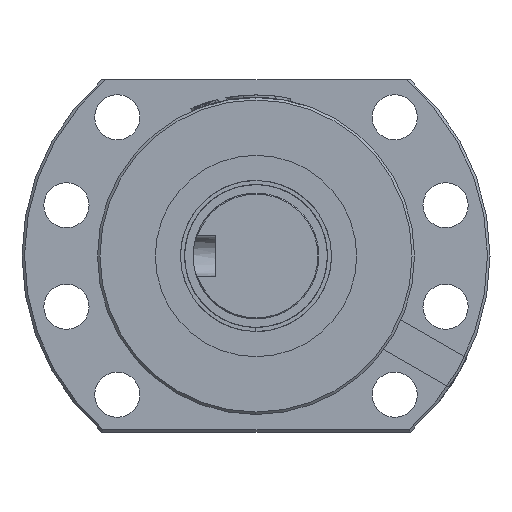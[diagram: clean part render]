
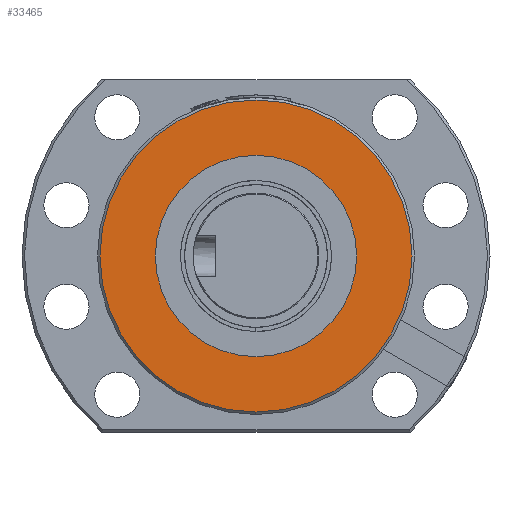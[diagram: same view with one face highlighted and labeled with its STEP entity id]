
A CAD part, left-side view. The second image highlights one B-rep face of the part: STEP entity #33465.
In plain terms, the highlighted planar face has unit normal (-1, 0, 0) as drawn and (1, 0, 0) by its records, which use the part's own axes.
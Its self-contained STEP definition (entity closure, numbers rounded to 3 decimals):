
#505 = CARTESIAN_POINT ( 'NONE',  ( -43.591, 25.081, -10.691 ) ) ;
#1031 = DIRECTION ( 'NONE',  ( 0., 0., 1. ) ) ;
#1201 = ORIENTED_EDGE ( 'NONE', *, *, #1275, .T. ) ;
#1275 = EDGE_CURVE ( 'NONE', #21559, #24844, #2655, .T. ) ;
#1709 = ORIENTED_EDGE ( 'NONE', *, *, #29952, .T. ) ;
#2655 = CIRCLE ( 'NONE', #16641, 31. ) ;
#7215 = AXIS2_PLACEMENT_3D ( 'NONE', #28558, #25842, #1031 ) ;
#8650 = ORIENTED_EDGE ( 'NONE', *, *, #32456, .T. ) ;
#8917 = DIRECTION ( 'NONE',  ( 0., 0., 1. ) ) ;
#9561 = CIRCLE ( 'NONE', #7215, 20. ) ;
#11314 = DIRECTION ( 'NONE',  ( 0., 0., 1. ) ) ;
#12026 = FACE_OUTER_BOUND ( 'NONE', #19459, .T. ) ;
#13957 = CARTESIAN_POINT ( 'NONE',  ( -43.591, 25.081, -10.191 ) ) ;
#14051 = DIRECTION ( 'NONE',  ( 1., 0., 0. ) ) ;
#14762 = DIRECTION ( 'NONE',  ( -1., 0., 0. ) ) ;
#15908 = DIRECTION ( 'NONE',  ( -1., 0., 0. ) ) ;
#16641 = AXIS2_PLACEMENT_3D ( 'NONE', #19173, #25320, #30952 ) ;
#16703 = VERTEX_POINT ( 'NONE', #34625 ) ;
#16818 = CARTESIAN_POINT ( 'NONE',  ( -43.591, 25.081, 20.809 ) ) ;
#17150 = AXIS2_PLACEMENT_3D ( 'NONE', #29889, #15908, #27156 ) ;
#17518 = FACE_BOUND ( 'NONE', #18071, .T. ) ;
#18071 = EDGE_LOOP ( 'NONE', ( #24013, #1709 ) ) ;
#19173 = CARTESIAN_POINT ( 'NONE',  ( -43.591, 25.081, 20.809 ) ) ;
#19459 = EDGE_LOOP ( 'NONE', ( #8650, #1201 ) ) ;
#20118 = AXIS2_PLACEMENT_3D ( 'NONE', #505, #14762, #8917 ) ;
#20605 = CARTESIAN_POINT ( 'NONE',  ( -43.591, 25.081, 40.809 ) ) ;
#21559 = VERTEX_POINT ( 'NONE', #13957 ) ;
#21814 = CIRCLE ( 'NONE', #29915, 31. ) ;
#24013 = ORIENTED_EDGE ( 'NONE', *, *, #30696, .T. ) ;
#24844 = VERTEX_POINT ( 'NONE', #31814 ) ;
#25320 = DIRECTION ( 'NONE',  ( 1., 0., 0. ) ) ;
#25506 = PLANE ( 'NONE',  #20118 ) ;
#25842 = DIRECTION ( 'NONE',  ( -1., 0., 0. ) ) ;
#27156 = DIRECTION ( 'NONE',  ( 0., 0., 1. ) ) ;
#28558 = CARTESIAN_POINT ( 'NONE',  ( -43.591, 25.081, 20.809 ) ) ;
#29889 = CARTESIAN_POINT ( 'NONE',  ( -43.591, 25.081, 20.809 ) ) ;
#29915 = AXIS2_PLACEMENT_3D ( 'NONE', #16818, #14051, #11314 ) ;
#29952 = EDGE_CURVE ( 'NONE', #16703, #33534, #9561, .T. ) ;
#30696 = EDGE_CURVE ( 'NONE', #33534, #16703, #32236, .T. ) ;
#30952 = DIRECTION ( 'NONE',  ( 0., 0., 1. ) ) ;
#31814 = CARTESIAN_POINT ( 'NONE',  ( -43.591, 25.081, 51.809 ) ) ;
#32236 = CIRCLE ( 'NONE', #17150, 20. ) ;
#32456 = EDGE_CURVE ( 'NONE', #24844, #21559, #21814, .T. ) ;
#33465 = ADVANCED_FACE ( 'NONE', ( #17518, #12026 ), #25506, .F. ) ;
#33534 = VERTEX_POINT ( 'NONE', #20605 ) ;
#34625 = CARTESIAN_POINT ( 'NONE',  ( -43.591, 25.081, 0.809 ) ) ;
